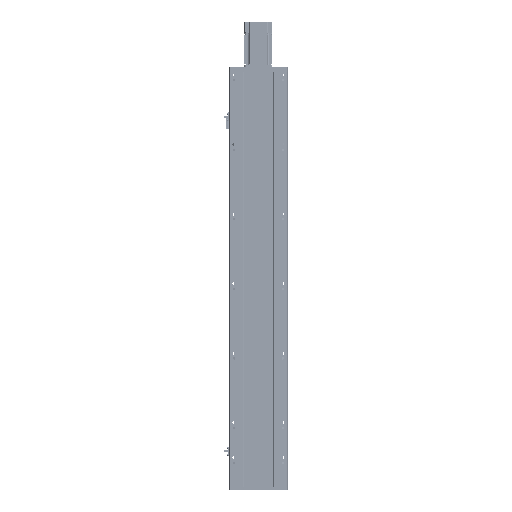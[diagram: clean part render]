
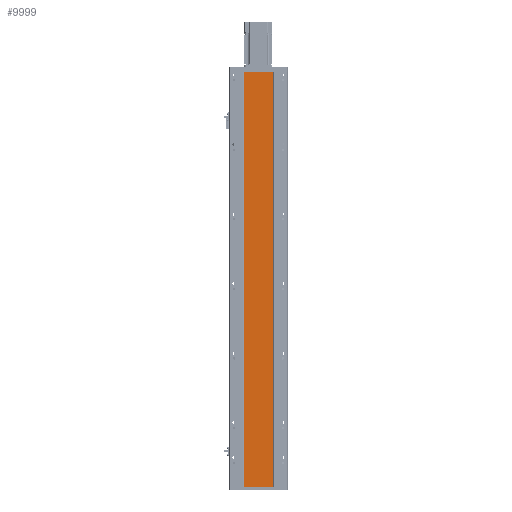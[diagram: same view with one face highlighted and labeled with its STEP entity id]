
A CAD part, front view. The second image highlights one B-rep face of the part: STEP entity #9999.
In plain terms, the highlighted planar face has unit normal (0, -1, 0).
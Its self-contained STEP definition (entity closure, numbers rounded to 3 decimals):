
#388 = VERTEX_POINT ( 'NONE', #74143 ) ;
#8620 = AXIS2_PLACEMENT_3D ( 'NONE', #63046, #12795, #71474 ) ;
#9462 = ORIENTED_EDGE ( 'NONE', *, *, #55780, .F. ) ;
#9999 = ADVANCED_FACE ( 'NONE', ( #47567 ), #96365, .T. ) ;
#12795 = DIRECTION ( 'NONE',  ( 0., -1., 0. ) ) ;
#19647 = DIRECTION ( 'NONE',  ( 0., 0., 1. ) ) ;
#20009 = CARTESIAN_POINT ( 'NONE',  ( -42., 0., -1195. ) ) ;
#20288 = LINE ( 'NONE', #81907, #62291 ) ;
#28644 = CARTESIAN_POINT ( 'NONE',  ( -42., 0., -1195. ) ) ;
#29412 = LINE ( 'NONE', #20009, #51722 ) ;
#36377 = VECTOR ( 'NONE', #87383, 1000. ) ;
#37209 = VECTOR ( 'NONE', #65284, 1000. ) ;
#40019 = DIRECTION ( 'NONE',  ( 1., 0., 0. ) ) ;
#47567 = FACE_OUTER_BOUND ( 'NONE', #66095, .T. ) ;
#48302 = CARTESIAN_POINT ( 'NONE',  ( 42., 0., -1195. ) ) ;
#50161 = ORIENTED_EDGE ( 'NONE', *, *, #87126, .T. ) ;
#51722 = VECTOR ( 'NONE', #19647, 1000. ) ;
#55780 = EDGE_CURVE ( 'NONE', #68589, #79016, #20288, .T. ) ;
#58116 = CARTESIAN_POINT ( 'NONE',  ( -42., 0., 0. ) ) ;
#62291 = VECTOR ( 'NONE', #40019, 1000. ) ;
#63046 = CARTESIAN_POINT ( 'NONE',  ( -42., 0., -1195. ) ) ;
#65284 = DIRECTION ( 'NONE',  ( 0., 0., 1. ) ) ;
#66095 = EDGE_LOOP ( 'NONE', ( #9462, #73458, #90404, #50161 ) ) ;
#67507 = CARTESIAN_POINT ( 'NONE',  ( 42., 0., -1195. ) ) ;
#68589 = VERTEX_POINT ( 'NONE', #58116 ) ;
#71474 = DIRECTION ( 'NONE',  ( 0., 0., -1. ) ) ;
#71731 = EDGE_CURVE ( 'NONE', #388, #68589, #29412, .T. ) ;
#73458 = ORIENTED_EDGE ( 'NONE', *, *, #71731, .F. ) ;
#74143 = CARTESIAN_POINT ( 'NONE',  ( -42., 0., -1195. ) ) ;
#74908 = EDGE_CURVE ( 'NONE', #388, #81299, #103359, .T. ) ;
#79016 = VERTEX_POINT ( 'NONE', #85364 ) ;
#81299 = VERTEX_POINT ( 'NONE', #67507 ) ;
#81907 = CARTESIAN_POINT ( 'NONE',  ( -42., 0., 0. ) ) ;
#85364 = CARTESIAN_POINT ( 'NONE',  ( 42., 0., 0. ) ) ;
#87126 = EDGE_CURVE ( 'NONE', #81299, #79016, #104197, .T. ) ;
#87383 = DIRECTION ( 'NONE',  ( 1., 0., 0. ) ) ;
#90404 = ORIENTED_EDGE ( 'NONE', *, *, #74908, .T. ) ;
#96365 = PLANE ( 'NONE',  #8620 ) ;
#103359 = LINE ( 'NONE', #28644, #36377 ) ;
#104197 = LINE ( 'NONE', #48302, #37209 ) ;
